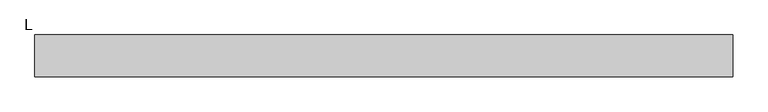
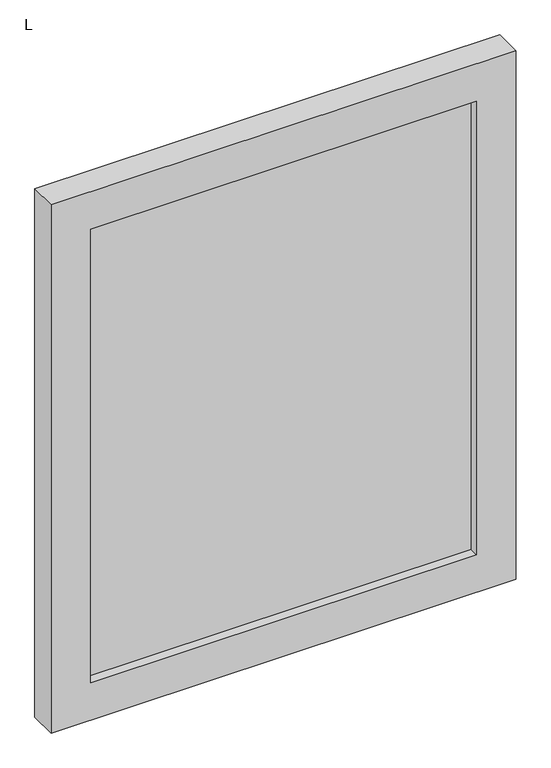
"""IFC4 building model written with IfcOpenShell, lengths in millimetres: proxy geometry, Renson_Fixvent_Window_SimpleFrame_Gen : L."""

import ifcopenshell
import ifcopenshell.guid

model = None  # the IFC model being written
_history = None  # IfcOwnerHistory: only IFC2X3 demands one
_inside = {}  # id of a spatial element -> (the spatial element, [elements in it])
_under = {}  # id of a project, library or spatial element -> (it, [spatial elements below it])
_declared = {}  # id of a project -> (the project, [libraries it declares])
_typed = {}  # id of a type object -> (the type object, [elements of that type])
_made_of = {}  # id of a material, layer set ... -> (it, [elements and type objects made of it])


def new_model(schema):
    """Start an empty IFC model of exactly this schema.

    Asked for "IFC4X3", IfcOpenShell would pick the latest addendum, in which some entities
    have other attributes; the version numbers below select the first issue.
    IFC2X3 requires an IfcOwnerHistory on every rooted entity: one is made here for all.
    """
    global model, _history
    if schema == "IFC4X3":
        model = ifcopenshell.file(schema_version=(4, 3, 0, 0))
    else:
        model = ifcopenshell.file(schema=schema)
    _inside.clear()
    _under.clear()
    _declared.clear()
    _typed.clear()
    _made_of.clear()
    _history = None
    if model.schema == "IFC2X3":
        org = make("IfcOrganization", Name="unknown")
        user = make(
            "IfcPersonAndOrganization",
            ThePerson=make("IfcPerson", FamilyName="unknown"),
            TheOrganization=org,
        )
        app = make(
            "IfcApplication",
            ApplicationDeveloper=org,
            Version="unknown",
            ApplicationFullName="unknown",
            ApplicationIdentifier="unknown",
        )
        _history = make(
            "IfcOwnerHistory",
            OwningUser=user,
            OwningApplication=app,
            ChangeAction="ADDED",
            CreationDate=0,
        )
    return model


def make(cls, **values):
    """One entity of the class cls with the attributes given. An attribute that is None is left unset."""
    return model.create_entity(
        cls, **{name: value for name, value in values.items() if value is not None}
    )


def rooted(cls, **values):
    """An entity with a GlobalId (a new one), such as an element, a storey or a relation."""
    return make(cls, GlobalId=ifcopenshell.guid.new(), OwnerHistory=_history, **values)


def si_unit(unit_type, name, prefix=None):
    """IfcSIUnit, for example si_unit("LENGTHUNIT", "METRE", prefix="MILLI")."""
    return make("IfcSIUnit", UnitType=unit_type, Prefix=prefix, Name=name)


def assignment(units):
    """IfcUnitAssignment: the units of a project."""
    return None if units is None else make("IfcUnitAssignment", Units=units)


def point(xyz):
    """IfcCartesianPoint."""
    return None if xyz is None else make("IfcCartesianPoint", Coordinates=xyz)


def direction(xyz):
    """IfcDirection."""
    return None if xyz is None else make("IfcDirection", DirectionRatios=xyz)


def frame(location, z_axis=None, x_axis=None):
    """IfcAxis2Placement3D, a coordinate frame: its origin and axes. An axis left out is left unset."""
    return make(
        "IfcAxis2Placement3D",
        Location=point(location),
        Axis=direction(z_axis),
        RefDirection=direction(x_axis),
    )


def origin():
    """The frame at (0, 0, 0) with its axes left unset."""
    return frame((0.0, 0.0, 0.0))


def place(relative_to, where):
    """IfcLocalPlacement: puts the frame where relative to a parent placement (None: the world)."""
    return make(
        "IfcLocalPlacement", PlacementRelTo=relative_to, RelativePlacement=where
    )


def context(
    kind, dimensions, precision=None, world=None, true_north=None, identifier=None
):
    """IfcGeometricRepresentationContext, for example the 3D "Model" context."""
    return make(
        "IfcGeometricRepresentationContext",
        ContextIdentifier=identifier,
        ContextType=kind,
        CoordinateSpaceDimension=dimensions,
        Precision=precision,
        WorldCoordinateSystem=world,
        TrueNorth=true_north,
    )


def project(units=None, contexts=None):
    """IfcProject with its units and contexts."""
    return rooted(
        "IfcProject",
        Name="project",
        RepresentationContexts=contexts,
        UnitsInContext=assignment(units),
    )


def spatial(cls, under=None, at=None, **own):
    """A site, building, storey or space (cls), placed at a placement, below another one or the project."""
    s = rooted(cls, ObjectPlacement=at, **own)
    if under is not None:
        _under.setdefault(under.id(), (under, []))[1].append(s)
    return s


def polyline(points):
    """IfcPolyline through the points."""
    return make("IfcPolyline", Points=[point(p) for p in points])


def outline(outer, holes=None, kind="AREA"):
    """IfcArbitraryClosedProfileDef: a profile drawn as a closed curve; with holes, ...WithVoids."""
    if holes is None:
        return make("IfcArbitraryClosedProfileDef", ProfileType=kind, OuterCurve=outer)
    return make(
        "IfcArbitraryProfileDefWithVoids",
        ProfileType=kind,
        OuterCurve=outer,
        InnerCurves=holes,
    )


def extrude(swept, where, along, depth):
    """IfcExtrudedAreaSolid: the profile swept, set in the frame where, extruded along a direction by depth."""
    return make(
        "IfcExtrudedAreaSolid",
        SweptArea=swept,
        Position=where,
        ExtrudedDirection=direction(along),
        Depth=depth,
    )


def faces_of(points, faces, orient=None, outer=None):
    """IfcFace entities. A face is a list of loops; a loop is a list of indices into points, from 0.

    orient and outer hold one flag for each loop. By default every Orientation is true, the
    first loop of a face is its IfcFaceOuterBound and the others are IfcFaceBound.
    """
    made = []
    for i, loops in enumerate(faces):
        bounds = []
        for j, loop in enumerate(loops):
            is_outer = j == 0 if outer is None else outer[i][j]
            bounds.append(
                make(
                    "IfcFaceOuterBound" if is_outer else "IfcFaceBound",
                    Bound=make("IfcPolyLoop", Polygon=[points[k] for k in loop]),
                    Orientation=True if orient is None else orient[i][j],
                )
            )
        made.append(make("IfcFace", Bounds=bounds))
    return made


def faceted_brep(points, faces, orient=None, outer=None, voids=None):
    """IfcFacetedBrep: a solid bounded by flat faces; with voids (closed shells), ...WithVoids."""
    shared = [point(p) for p in points]
    hull = make("IfcClosedShell", CfsFaces=faces_of(shared, faces, orient, outer))
    if voids is None:
        return make("IfcFacetedBrep", Outer=hull)
    return make(
        "IfcFacetedBrepWithVoids",
        Outer=hull,
        Voids=[
            make(cls, CfsFaces=faces_of(shared, fs, o, b)) for cls, fs, o, b in voids
        ],
    )


def shape(context_of_items, identifier, shape_type, items):
    """IfcShapeRepresentation: the items that make up one representation, for example the "Body"."""
    return make(
        "IfcShapeRepresentation",
        ContextOfItems=context_of_items,
        RepresentationIdentifier=identifier,
        RepresentationType=shape_type,
        Items=items,
    )


def source(mapping_origin, context_of_items, identifier, shape_type, items):
    """IfcRepresentationMap: a shape defined once, which mapped items show again and again."""
    return make(
        "IfcRepresentationMap",
        MappingOrigin=mapping_origin,
        MappedRepresentation=shape(context_of_items, identifier, shape_type, items),
    )


def transform(
    local_origin,
    x_axis=None,
    y_axis=None,
    z_axis=None,
    scale=None,
    scale2=None,
    scale3=None,
    uniform=True,
):
    """IfcCartesianTransformationOperator3D, or its non-uniform kind. x_axis, y_axis, z_axis: its Axis1, 2, 3."""
    if uniform:
        return make(
            "IfcCartesianTransformationOperator3D",
            Axis1=direction(x_axis),
            Axis2=direction(y_axis),
            LocalOrigin=point(local_origin),
            Scale=scale,
            Axis3=direction(z_axis),
        )
    return make(
        "IfcCartesianTransformationOperator3DnonUniform",
        Axis1=direction(x_axis),
        Axis2=direction(y_axis),
        LocalOrigin=point(local_origin),
        Scale=scale,
        Axis3=direction(z_axis),
        Scale2=scale2,
        Scale3=scale3,
    )


def mapped(mapping_source, mapping_target):
    """IfcMappedItem: shows the shape of a source again, moved by a transform."""
    return make(
        "IfcMappedItem", MappingSource=mapping_source, MappingTarget=mapping_target
    )


def made_of(thing, what):
    """Note that an element or type object is made of a material, layer set ...; save() writes the relation."""
    if what is not None:
        _made_of.setdefault(what.id(), (what, []))[1].append(thing)
    return thing


def element(
    cls,
    number,
    at=None,
    inside=None,
    cuts=None,
    type_object=None,
    material=None,
    context=None,
    identifier="Body",
    shape_type=None,
    held_by="IfcProductDefinitionShape",
    body=None,
    shapes=None,
    **own,
):
    """One element of the class cls, such as IfcWall. Its Tag is "e" and its number.

    at: its placement. inside: the storey or other place that contains it. cuts: it is an
    opening in that element (IfcRelVoidsElement). A single representation is given by context,
    identifier, shape_type and body (its items); several are given by shapes. held_by: the class
    of the entity that holds the representations. save() writes the other relations.
    """
    e = rooted(cls, Tag="e%d" % number, ObjectPlacement=at, **own)
    if body is not None:
        shapes = [shape(context, identifier, shape_type, body)]
    if shapes is not None:
        e.Representation = make(held_by, Representations=shapes)
    if inside is not None:
        _inside.setdefault(inside.id(), (inside, []))[1].append(e)
    if cuts is not None:
        rooted(
            "IfcRelVoidsElement", RelatingBuildingElement=cuts, RelatedOpeningElement=e
        )
    if type_object is not None:
        _typed.setdefault(type_object.id(), (type_object, []))[1].append(e)
    return made_of(e, material)


def aggregate(whole, parts):
    """IfcRelAggregates: a whole, such as a stair, and the parts it consists of."""
    return rooted("IfcRelAggregates", RelatingObject=whole, RelatedObjects=parts)


def save(model, path):
    """Write the relations noted so far, then the file.

    IfcRelAggregates (storeys below a building ...), IfcRelContainedInSpatialStructure (elements
    in a storey), IfcRelDefinesByType, IfcRelAssociatesMaterial and IfcRelDeclares: one each for
    every whole, place, type object, material and project.
    """
    for whole, parts in _under.values():
        aggregate(whole, parts)
    for where, things in _inside.values():
        rooted(
            "IfcRelContainedInSpatialStructure",
            RelatedElements=things,
            RelatingStructure=where,
        )
    for kind, things in _typed.values():
        rooted("IfcRelDefinesByType", RelatedObjects=things, RelatingType=kind)
    for what, things in _made_of.values():
        rooted("IfcRelAssociatesMaterial", RelatedObjects=things, RelatingMaterial=what)
    for by, libraries in _declared.values():
        rooted("IfcRelDeclares", RelatingContext=by, RelatedDefinitions=libraries)
    model.write(path)


def l_40027175(model_context):
    return source(origin(), model_context, "Body", "SolidModel", [
        extrude(outline(polyline([(1990.0, -435.0), (920.0, -435.0), (920.0, 435.0), (1990.0, 435.0), (1990.0, -435.0)]), holes=[polyline([(1970.0, 415.0), (940.0, 415.0), (940.0, -415.0), (1970.0, -415.0), (1970.0, 415.0)])]), frame((0.0, 39.9933422, 0.0), z_axis=(0.0, 1.0, 0.0), x_axis=(0.0, 0.0, 1.0)), (0.0, 0.0, 1.0), 20.0),
        extrude(outline(polyline([(435.0, 19.9933422), (-435.0, 19.9933422), (-435.0, 39.9933422), (435.0, 39.9933422), (435.0, 19.9933422)])), frame((0.0, 0.0, 920.0), z_axis=(0.0, 0.0, 1.0), x_axis=(1.0, 0.0, 0.0)), (0.0, 0.0, 1.0), 1070.0),
        faceted_brep([(-435.0, 19.9933422, 1990.0), (-435.0, 59.9933422, 1990.0), (435.0, 59.9933422, 1990.0), (435.0, 19.9933422, 1990.0), (-415.0, -0.0066578, 1970.0), (-415.0, 19.9933422, 1970.0), (415.0, 19.9933422, 1970.0), (415.0, -0.0066578, 1970.0), (-500.0, 59.9933422, 2055.0), (-500.0, -0.0066578, 2055.0), (500.0, -0.0066578, 2055.0), (500.0, 59.9933422, 2055.0), (435.0, 59.9933422, 920.0), (435.0, 19.9933422, 920.0), (415.0, 19.9933422, 940.0), (415.0, -0.0066578, 940.0), (500.0, -0.0066578, 855.0), (500.0, 59.9933422, 855.0), (-435.0, 59.9933422, 920.0), (-435.0, 19.9933422, 920.0), (-415.0, 19.9933422, 940.0), (-415.0, -0.0066578, 940.0), (-500.0, -0.0066578, 855.0), (-500.0, 59.9933422, 855.0)], [[[0, 1, 2, 3]], [[4, 5, 6, 7]], [[8, 9, 10, 11]], [[3, 2, 12, 13]], [[7, 6, 14, 15]], [[11, 10, 16, 17]], [[13, 12, 18, 19]], [[15, 14, 20, 21]], [[17, 16, 22, 23]], [[11, 17, 23, 8], [1, 18, 12, 2]], [[19, 18, 1, 0]], [[3, 13, 19, 0], [5, 20, 14, 6]], [[21, 20, 5, 4]], [[9, 22, 16, 10], [7, 15, 21, 4]], [[23, 22, 9, 8]]]),
    ])


if __name__ == "__main__":
    model = new_model("IFC4")
    model_context = context("Model", 3, world=origin())
    ifc_project = project(units=[si_unit("LENGTHUNIT", "METRE", prefix="MILLI")], contexts=[model_context])
    site = spatial("IfcSite", under=ifc_project)
    building = spatial("IfcBuilding", under=site)
    placement = place(None, origin())
    l_shape = l_40027175(model_context)
    element("IfcBuildingElementProxy", 1, Name="Renson_Fixvent_Window_SimpleFrame_Gen : L", ObjectType="Renson_Fixvent_Window_SimpleFrame_Gen : L", at=placement, inside=building, context=model_context, shape_type="MappedRepresentation", body=[
        mapped(l_shape, transform((0.0, 0.0, 0.0), x_axis=(1.0, 0.0, 0.0), y_axis=(0.0, 1.0, 0.0), z_axis=(0.0, 0.0, 1.0))),
    ])
    save(model, "model.ifc")
